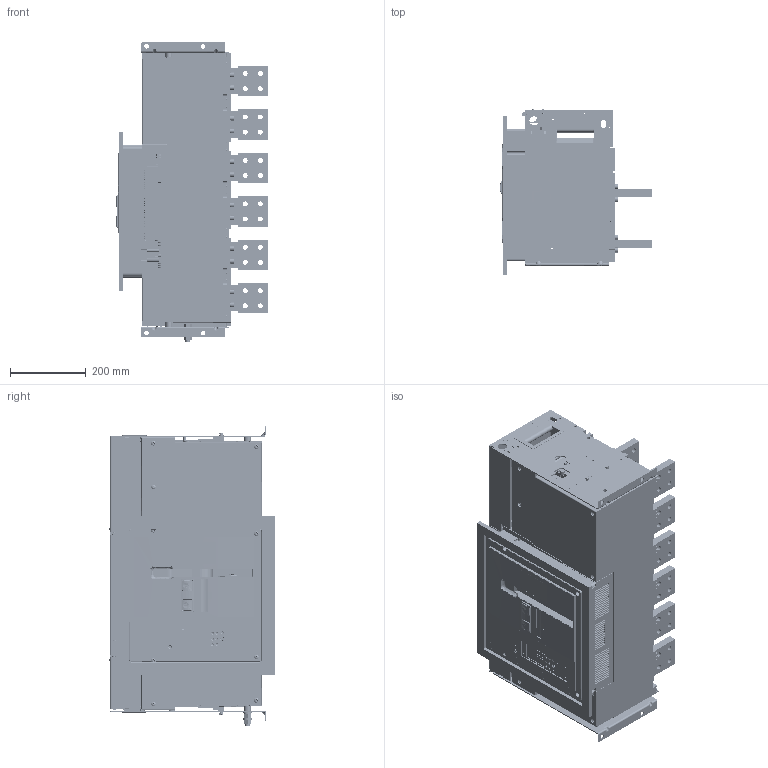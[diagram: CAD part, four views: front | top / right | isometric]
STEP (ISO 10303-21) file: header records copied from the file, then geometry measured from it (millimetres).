
FILE_DESCRIPTION (( 'STEP AP214' ), '1' );
FILE_NAME ('TEW5-6300 F 3P 4000A.STEP', '2026-04-03T12:40:25', ( '' ), ( '' ), 'SwSTEP 2.0', 'SolidWorks 2024', '' );
FILE_SCHEMA (( 'AUTOMOTIVE_DESIGN' ));
Length unit declared in the file: millimetre
Products named in the file (99): 5TZD_050_6006_ASM.stp; GB_T9074_4-M6X30_4.stp; 8TZD_580_6073.stp; 8TZD_004_6198_1.stp; 8TZD_043_6084_1.stp; GB_T876_3X6.stp; 5TZD_024_6138_ASM_1.stp; 8TZD_055_6021.stp; GB_T9074_4-M6X40_5.stp; GB_T809-M6X12-A_3.stp; 8TZD_320_1004.stp; 8TZD_005_6070_1.stp; 5TZD_050_6005_ASM.stp; 8TZD_947_1001_4.stp; 5TZD_055_6033_ASM.stp; 8TZD_742_6251.stp; 8TZD_288_1183_AF1_2.stp; 8TZD_024_6187_AF0_1.stp; TeW5-4000 and 6300-F.stp; 8TZD_300_1237_1.stp; GB_T5782-M6X16_2.stp; 8TZD_004_6142_1.stp; 8TZD_580_6056.stp; 8TZD_050_6046.stp; GB_T809-M4X12-A_1.stp; 8TZD_300_6129.stp; 8TZD_941_1000_5.stp; GB_T5783-M6X16_2.stp; 5TZD_050_6003_ASM.stp; 8TZD_288_1020_4.stp; 8TZD_282_1114_AF0_4.stp; 8TZD_340_1004.stp; GB_T9074_4-M6X25_4.stp; 5TZD_300_1057_ASM_1.stp; 5TZD_005_6013_ASM_1.stp; TeW5-4000 and 6300-F; 8TZD_206_1039_4.stp; GB_T809-M6X12-A_AF0_1.stp; GB_T93-8_4.stp; 8TZD_043_6085_AF0_1.stp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
Assembly tree (422 placements, depth 6):
  TEW5-6300 F 3P 4000A
    TEW5-6300 D 3P 4900-6300A.stp
      6TZD_225_6052_ASM.stp
        5TZD_024_6141_ASM_1.stp
          5TZD_024_6138_ASM_1.stp
            8TZD_024_6187_AF0_1.stp
            GB_T809-M6X12-A_3.stp  x16
            GB_T809-M6X12-A_AF0_1.stp
            GB_T809-M6X12-A_AF1_1.stp
            GB_T809-M6X12-A_AF2_1.stp
            GB_T809-M4X12-A_1.stp  x4
            8TZD_043_6084_1.stp
            8TZD_043_6085_AF0_1.stp
        5TZD_055_6034_ASM.stp
          5TZD_055_6033_ASM.stp
            8TZD_055_6021.stp
            GB_T809-M6X12-A_3.stp  x18
        5TZD_005_6013_ASM_1.stp
          5TZD_005_6012_ASM_1.stp
            8TZD_005_6070_1.stp
            8TZD_315_1270_5.stp
          8TZD_253_1144_5.stp
          8TZD_253_1145_5.stp
          8TZD_231_1036_5.stp
          8TZD_282_1114_AF0_4.stp
        8TZD_940_1006_5.stp  x4
        GB_T9074_4-M6X55_5.stp  x13
        GB_T9074_4-M6X80_5.stp  x15
        8TZD_940_1005_5.stp  x13
        8TZD_941_1000_5.stp  x12
        8TZD_206_6081_1.stp
        8TZD_281_1029_5.stp
        8TZD_206_1039_4.stp  x6
        GB_T896-6_4.stp  x6
        8TZD_043_6095_1.stp  x2
        8TZD_043_6096_1.stp  x2
        GB_T9074_4-M6X40_5.stp  x4
        6TZD_248_6021_1.stp
        5TZD_558_6399.stp
        GB_T9074_4-M6X25_4.stp  x2
        8TZD_288_1020_4.stp
        GB_T9074_4-M6X30_4.stp  x3
        8TZD_004_6198_1.stp
        8TZD_004_6142_1.stp
      5TZD_050_6005_ASM.stp
        5TZD_050_6003_ASM.stp
          8TZD_050_6046.stp
          8TZD_156_6066_2.stp
          8TZD_125_6001.stp
          GB_T5783-M12X40_2.stp
          GB_T97_1_12_2.stp  x3
          GB_T93-12_2.stp
          GB_T6170-M12_2.stp  x2
          GB_T97_1_6_5.stp  x2
          GB_T93-6_5.stp  x2
          GB_T5782-M6X16_2.stp  x2
          8TZD_156_6066_3.stp
        8TZD_399_1002_2.stp
      5TZD_050_6006_ASM.stp
        5TZD_050_6004_ASM.stp
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Bounding box: 401.9 x 438.47 x 793.25 mm (x, y, z)
Volume: 14323476.4 mm3; surface area: 6408220.9 mm2
Topology: 184 solids, 665 shells, 20856 faces, 53257 edges, 33759 vertices
Faces by surface type: plane 12516, cylinder 5675, cone 1740, bspline 367, torus 360, sphere 198
Entity records: 471747 total; most frequent: CARTESIAN_POINT 126578, ORIENTED_EDGE 72456, DIRECTION 68230, EDGE_CURVE 36312, LINE 27540, VECTOR 27540, VERTEX_POINT 23589, AXIS2_PLACEMENT_3D 20345
